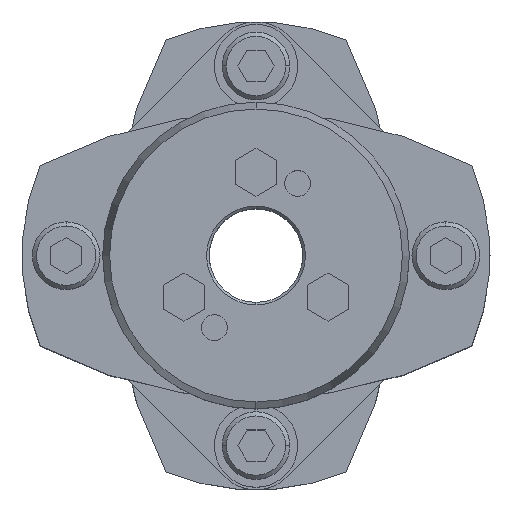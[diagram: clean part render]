
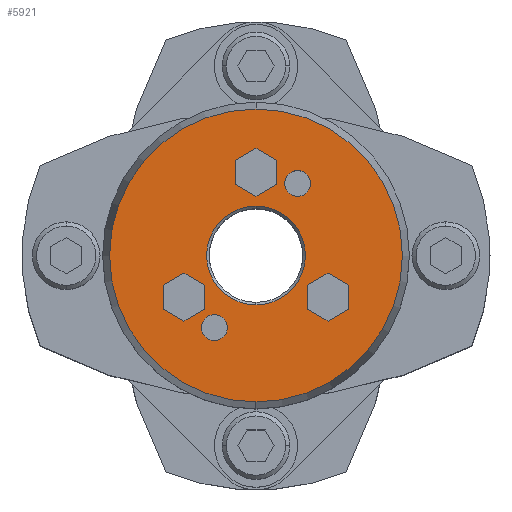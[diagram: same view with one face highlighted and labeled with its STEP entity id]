
A CAD part, top view. The second image highlights one B-rep face of the part: STEP entity #5921.
In plain terms, the highlighted planar face has unit normal (0, 0, 1).
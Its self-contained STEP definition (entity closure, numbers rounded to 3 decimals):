
#1677=CARTESIAN_POINT('',(0.,9.5,52.0));
#1678=VERTEX_POINT('',#1677);
#1694=CARTESIAN_POINT('',(0.,-9.5,52.0));
#1695=VERTEX_POINT('',#1694);
#1702=CARTESIAN_POINT('',(0.,0.,52.0));
#1703=DIRECTION('',(0.0,0.0,1.0));
#1704=DIRECTION('',(0.0,1.0,0.0));
#1705=AXIS2_PLACEMENT_3D('',#1702,#1703,#1704);
#1706=CIRCLE('',#1705,9.5);
#1707=EDGE_CURVE('',#1695,#1678,#1706,.T.);
#1865=CARTESIAN_POINT('',(0.,-28.16,52.0));
#1866=VERTEX_POINT('',#1865);
#1873=CARTESIAN_POINT('',(0.,28.16,52.0));
#1874=VERTEX_POINT('',#1873);
#1875=CARTESIAN_POINT('',(0.,0.,52.0));
#1876=DIRECTION('',(0.0,0.0,-1.0));
#1877=DIRECTION('',(0.0,-1.0,0.0));
#1878=AXIS2_PLACEMENT_3D('',#1875,#1876,#1877);
#1879=CIRCLE('',#1878,28.16);
#1880=EDGE_CURVE('',#1866,#1874,#1879,.T.);
#2123=CARTESIAN_POINT('',(8.,16.356,52.0));
#2124=VERTEX_POINT('',#2123);
#2140=CARTESIAN_POINT('',(8.,11.356,52.0));
#2141=VERTEX_POINT('',#2140);
#2148=CARTESIAN_POINT('',(8.,13.856,52.0));
#2149=DIRECTION('',(0.0,0.0,-1.0));
#2150=DIRECTION('',(0.0,1.0,0.0));
#2151=AXIS2_PLACEMENT_3D('',#2148,#2149,#2150);
#2152=CIRCLE('',#2151,2.5);
#2153=EDGE_CURVE('',#2124,#2141,#2152,.T.);
#2165=CARTESIAN_POINT('',(-8.,-11.356,52.0));
#2166=VERTEX_POINT('',#2165);
#2182=CARTESIAN_POINT('',(-8.,-16.356,52.0));
#2183=VERTEX_POINT('',#2182);
#2190=CARTESIAN_POINT('',(-8.,-13.856,52.0));
#2191=DIRECTION('',(0.0,0.0,-1.0));
#2192=DIRECTION('',(0.0,1.0,0.0));
#2193=AXIS2_PLACEMENT_3D('',#2190,#2191,#2192);
#2194=CIRCLE('',#2193,2.5);
#2195=EDGE_CURVE('',#2166,#2183,#2194,.T.);
#4437=CARTESIAN_POINT('',(13.856,-3.381,52.0));
#4438=VERTEX_POINT('',#4437);
#4445=CARTESIAN_POINT('',(9.856,-5.691,52.0));
#4446=VERTEX_POINT('',#4445);
#4447=CARTESIAN_POINT('',(9.856,-5.691,52.0));
#4448=DIRECTION('',(0.866,0.5,0.0));
#4449=VECTOR('',#4448,4.619);
#4450=LINE('',#4447,#4449);
#4451=EDGE_CURVE('',#4446,#4438,#4450,.T.);
#4475=CARTESIAN_POINT('',(17.856,-5.691,52.0));
#4476=VERTEX_POINT('',#4475);
#4483=CARTESIAN_POINT('',(13.856,-3.381,52.0));
#4484=DIRECTION('',(0.866,-0.5,0.0));
#4485=VECTOR('',#4484,4.619);
#4486=LINE('',#4483,#4485);
#4487=EDGE_CURVE('',#4438,#4476,#4486,.T.);
#4506=CARTESIAN_POINT('',(17.856,-10.309,52.0));
#4507=VERTEX_POINT('',#4506);
#4514=CARTESIAN_POINT('',(17.856,-5.691,52.0));
#4515=DIRECTION('',(0.0,-1.0,0.0));
#4516=VECTOR('',#4515,4.619);
#4517=LINE('',#4514,#4516);
#4518=EDGE_CURVE('',#4476,#4507,#4517,.T.);
#4537=CARTESIAN_POINT('',(13.856,-12.619,52.0));
#4538=VERTEX_POINT('',#4537);
#4545=CARTESIAN_POINT('',(17.856,-10.309,52.0));
#4546=DIRECTION('',(-0.866,-0.5,0.0));
#4547=VECTOR('',#4546,4.619);
#4548=LINE('',#4545,#4547);
#4549=EDGE_CURVE('',#4507,#4538,#4548,.T.);
#4568=CARTESIAN_POINT('',(9.856,-10.309,52.0));
#4569=VERTEX_POINT('',#4568);
#4576=CARTESIAN_POINT('',(13.856,-12.619,52.0));
#4577=DIRECTION('',(-0.866,0.5,0.0));
#4578=VECTOR('',#4577,4.619);
#4579=LINE('',#4576,#4578);
#4580=EDGE_CURVE('',#4538,#4569,#4579,.T.);
#4598=CARTESIAN_POINT('',(9.856,-10.309,52.0));
#4599=DIRECTION('',(0.0,1.0,0.0));
#4600=VECTOR('',#4599,4.619);
#4601=LINE('',#4598,#4600);
#4602=EDGE_CURVE('',#4569,#4446,#4601,.T.);
#4637=CARTESIAN_POINT('',(0.,20.619,52.0));
#4638=VERTEX_POINT('',#4637);
#4645=CARTESIAN_POINT('',(-4.,18.309,52.0));
#4646=VERTEX_POINT('',#4645);
#4647=CARTESIAN_POINT('',(-4.,18.309,52.0));
#4648=DIRECTION('',(0.866,0.5,0.0));
#4649=VECTOR('',#4648,4.619);
#4650=LINE('',#4647,#4649);
#4651=EDGE_CURVE('',#4646,#4638,#4650,.T.);
#4675=CARTESIAN_POINT('',(4.,18.309,52.0));
#4676=VERTEX_POINT('',#4675);
#4683=CARTESIAN_POINT('',(0.,20.619,52.0));
#4684=DIRECTION('',(0.866,-0.5,0.0));
#4685=VECTOR('',#4684,4.619);
#4686=LINE('',#4683,#4685);
#4687=EDGE_CURVE('',#4638,#4676,#4686,.T.);
#4706=CARTESIAN_POINT('',(4.,13.691,52.0));
#4707=VERTEX_POINT('',#4706);
#4714=CARTESIAN_POINT('',(4.,18.309,52.0));
#4715=DIRECTION('',(0.0,-1.0,0.0));
#4716=VECTOR('',#4715,4.619);
#4717=LINE('',#4714,#4716);
#4718=EDGE_CURVE('',#4676,#4707,#4717,.T.);
#4737=CARTESIAN_POINT('',(0.,11.381,52.0));
#4738=VERTEX_POINT('',#4737);
#4745=CARTESIAN_POINT('',(4.,13.691,52.0));
#4746=DIRECTION('',(-0.866,-0.5,0.0));
#4747=VECTOR('',#4746,4.619);
#4748=LINE('',#4745,#4747);
#4749=EDGE_CURVE('',#4707,#4738,#4748,.T.);
#4768=CARTESIAN_POINT('',(-4.,13.691,52.0));
#4769=VERTEX_POINT('',#4768);
#4776=CARTESIAN_POINT('',(0.,11.381,52.0));
#4777=DIRECTION('',(-0.866,0.5,0.0));
#4778=VECTOR('',#4777,4.619);
#4779=LINE('',#4776,#4778);
#4780=EDGE_CURVE('',#4738,#4769,#4779,.T.);
#4798=CARTESIAN_POINT('',(-4.,13.691,52.0));
#4799=DIRECTION('',(0.0,1.0,0.0));
#4800=VECTOR('',#4799,4.619);
#4801=LINE('',#4798,#4800);
#4802=EDGE_CURVE('',#4769,#4646,#4801,.T.);
#4837=CARTESIAN_POINT('',(-13.856,-3.381,52.0));
#4838=VERTEX_POINT('',#4837);
#4845=CARTESIAN_POINT('',(-17.856,-5.691,52.0));
#4846=VERTEX_POINT('',#4845);
#4847=CARTESIAN_POINT('',(-17.856,-5.691,52.0));
#4848=DIRECTION('',(0.866,0.5,0.0));
#4849=VECTOR('',#4848,4.619);
#4850=LINE('',#4847,#4849);
#4851=EDGE_CURVE('',#4846,#4838,#4850,.T.);
#4875=CARTESIAN_POINT('',(-9.856,-5.691,52.0));
#4876=VERTEX_POINT('',#4875);
#4883=CARTESIAN_POINT('',(-13.856,-3.381,52.0));
#4884=DIRECTION('',(0.866,-0.5,0.0));
#4885=VECTOR('',#4884,4.619);
#4886=LINE('',#4883,#4885);
#4887=EDGE_CURVE('',#4838,#4876,#4886,.T.);
#4906=CARTESIAN_POINT('',(-9.856,-10.309,52.0));
#4907=VERTEX_POINT('',#4906);
#4914=CARTESIAN_POINT('',(-9.856,-5.691,52.0));
#4915=DIRECTION('',(0.0,-1.0,0.0));
#4916=VECTOR('',#4915,4.619);
#4917=LINE('',#4914,#4916);
#4918=EDGE_CURVE('',#4876,#4907,#4917,.T.);
#4937=CARTESIAN_POINT('',(-13.856,-12.619,52.0));
#4938=VERTEX_POINT('',#4937);
#4945=CARTESIAN_POINT('',(-9.856,-10.309,52.0));
#4946=DIRECTION('',(-0.866,-0.5,0.0));
#4947=VECTOR('',#4946,4.619);
#4948=LINE('',#4945,#4947);
#4949=EDGE_CURVE('',#4907,#4938,#4948,.T.);
#4968=CARTESIAN_POINT('',(-17.856,-10.309,52.0));
#4969=VERTEX_POINT('',#4968);
#4976=CARTESIAN_POINT('',(-13.856,-12.619,52.0));
#4977=DIRECTION('',(-0.866,0.5,0.0));
#4978=VECTOR('',#4977,4.619);
#4979=LINE('',#4976,#4978);
#4980=EDGE_CURVE('',#4938,#4969,#4979,.T.);
#4998=CARTESIAN_POINT('',(-17.856,-10.309,52.0));
#4999=DIRECTION('',(0.0,1.0,0.0));
#5000=VECTOR('',#4999,4.619);
#5001=LINE('',#4998,#5000);
#5002=EDGE_CURVE('',#4969,#4846,#5001,.T.);
#5028=CARTESIAN_POINT('',(-8.,-13.856,52.0));
#5029=DIRECTION('',(0.0,0.0,-1.0));
#5030=DIRECTION('',(0.0,1.0,0.0));
#5031=AXIS2_PLACEMENT_3D('',#5028,#5029,#5030);
#5032=CIRCLE('',#5031,2.5);
#5033=EDGE_CURVE('',#2183,#2166,#5032,.T.);
#5062=CARTESIAN_POINT('',(8.,13.856,52.0));
#5063=DIRECTION('',(0.0,0.0,-1.0));
#5064=DIRECTION('',(0.0,1.0,0.0));
#5065=AXIS2_PLACEMENT_3D('',#5062,#5063,#5064);
#5066=CIRCLE('',#5065,2.5);
#5067=EDGE_CURVE('',#2141,#2124,#5066,.T.);
#5860=CARTESIAN_POINT('',(0.,0.,52.0));
#5861=DIRECTION('',(0.0,0.0,-1.0));
#5862=DIRECTION('',(0.0,-1.0,0.0));
#5863=AXIS2_PLACEMENT_3D('',#5860,#5861,#5862);
#5864=CIRCLE('',#5863,28.16);
#5865=EDGE_CURVE('',#1874,#1866,#5864,.T.);
#5870=CARTESIAN_POINT('',(0.,2.682,52.0));
#5871=DIRECTION('',(0.0,0.0,1.0));
#5872=DIRECTION('',(0.0,1.0,0.0));
#5873=AXIS2_PLACEMENT_3D('',#5870,#5871,#5872);
#5874=PLANE('',#5873);
#5875=ORIENTED_EDGE('',*,*,#5865,.F.);
#5876=ORIENTED_EDGE('',*,*,#1880,.F.);
#5877=EDGE_LOOP('',(#5875,#5876));
#5878=FACE_OUTER_BOUND('',#5877,.T.);
#5879=ORIENTED_EDGE('',*,*,#4451,.T.);
#5880=ORIENTED_EDGE('',*,*,#4487,.T.);
#5881=ORIENTED_EDGE('',*,*,#4518,.T.);
#5882=ORIENTED_EDGE('',*,*,#4549,.T.);
#5883=ORIENTED_EDGE('',*,*,#4580,.T.);
#5884=ORIENTED_EDGE('',*,*,#4602,.T.);
#5885=EDGE_LOOP('',(#5879,#5880,#5881,#5882,#5883,#5884));
#5886=FACE_BOUND('',#5885,.T.);
#5887=ORIENTED_EDGE('',*,*,#4651,.T.);
#5888=ORIENTED_EDGE('',*,*,#4687,.T.);
#5889=ORIENTED_EDGE('',*,*,#4718,.T.);
#5890=ORIENTED_EDGE('',*,*,#4749,.T.);
#5891=ORIENTED_EDGE('',*,*,#4780,.T.);
#5892=ORIENTED_EDGE('',*,*,#4802,.T.);
#5893=EDGE_LOOP('',(#5887,#5888,#5889,#5890,#5891,#5892));
#5894=FACE_BOUND('',#5893,.T.);
#5895=ORIENTED_EDGE('',*,*,#4851,.T.);
#5896=ORIENTED_EDGE('',*,*,#4887,.T.);
#5897=ORIENTED_EDGE('',*,*,#4918,.T.);
#5898=ORIENTED_EDGE('',*,*,#4949,.T.);
#5899=ORIENTED_EDGE('',*,*,#4980,.T.);
#5900=ORIENTED_EDGE('',*,*,#5002,.T.);
#5901=EDGE_LOOP('',(#5895,#5896,#5897,#5898,#5899,#5900));
#5902=FACE_BOUND('',#5901,.T.);
#5903=ORIENTED_EDGE('',*,*,#2195,.T.);
#5904=ORIENTED_EDGE('',*,*,#5033,.T.);
#5905=EDGE_LOOP('',(#5903,#5904));
#5906=FACE_BOUND('',#5905,.T.);
#5907=ORIENTED_EDGE('',*,*,#2153,.T.);
#5908=ORIENTED_EDGE('',*,*,#5067,.T.);
#5909=EDGE_LOOP('',(#5907,#5908));
#5910=FACE_BOUND('',#5909,.T.);
#5911=ORIENTED_EDGE('',*,*,#1707,.F.);
#5912=CARTESIAN_POINT('',(0.,0.,52.0));
#5913=DIRECTION('',(0.0,0.0,1.0));
#5914=DIRECTION('',(0.0,1.0,0.0));
#5915=AXIS2_PLACEMENT_3D('',#5912,#5913,#5914);
#5916=CIRCLE('',#5915,9.5);
#5917=EDGE_CURVE('',#1678,#1695,#5916,.T.);
#5918=ORIENTED_EDGE('',*,*,#5917,.F.);
#5919=EDGE_LOOP('',(#5911,#5918));
#5920=FACE_BOUND('',#5919,.T.);
#5921=ADVANCED_FACE('',(#5878,#5886,#5894,#5902,#5906,#5910,#5920),#5874,.T.);
